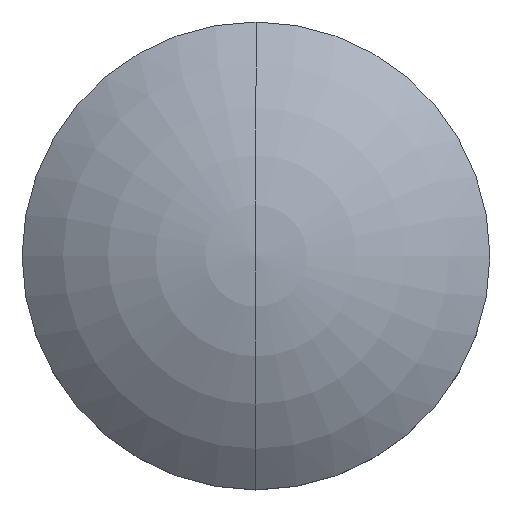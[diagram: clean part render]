
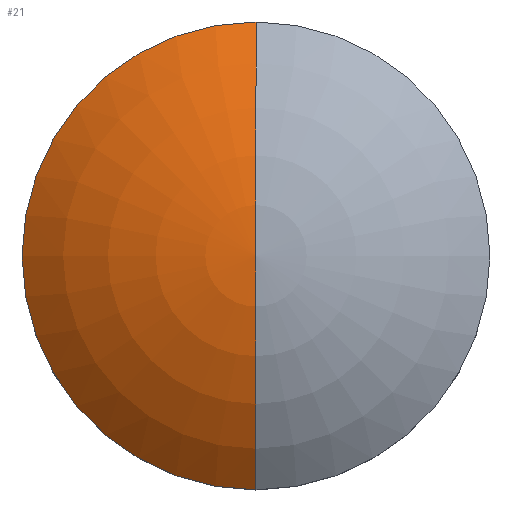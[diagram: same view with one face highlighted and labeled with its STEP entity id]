
A CAD part, top view. The second image highlights one B-rep face of the part: STEP entity #21.
In plain terms, the highlighted toroidal (fillet/blend) face has major radius 0.002 mm and minor radius 17 mm.
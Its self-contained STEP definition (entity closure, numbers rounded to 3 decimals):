
#21 = ADVANCED_FACE ( 'NONE', ( #458 ), #459, .T. ) ;
#56 = VERTEX_POINT ( 'NONE', #704 ) ;
#76 = EDGE_CURVE ( 'NONE', #1420, #56, #798, .T. ) ;
#205 = CIRCLE ( 'NONE', #206, 17. ) ;
#206 = AXIS2_PLACEMENT_3D ( 'NONE', #207, #208, #209 ) ;
#207 = CARTESIAN_POINT ( 'NONE',  ( 0., 0.002, -17. ) ) ;
#208 = DIRECTION ( 'NONE',  ( -1., 0., 0. ) ) ;
#209 = DIRECTION ( 'NONE',  ( 0., 0., 1. ) ) ;
#429 = CARTESIAN_POINT ( 'NONE',  ( 0., 11., -4.04 ) ) ;
#458 = FACE_OUTER_BOUND ( 'NONE', #1412, .T. ) ;
#459 = TOROIDAL_SURFACE ( 'NONE', #460, -0.002, 17. ) ;
#460 = AXIS2_PLACEMENT_3D ( 'NONE', #461, #462, #463 ) ;
#461 = CARTESIAN_POINT ( 'NONE',  ( 0., 0., -17. ) ) ;
#462 = DIRECTION ( 'NONE',  ( 0., 0., 1. ) ) ;
#463 = DIRECTION ( 'NONE',  ( 0., -1., 0. ) ) ;
#679 = CARTESIAN_POINT ( 'NONE',  ( 0., -11., -4.04 ) ) ;
#704 = CARTESIAN_POINT ( 'NONE',  ( 0., 0., 0. ) ) ;
#727 = ORIENTED_EDGE ( 'NONE', *, *, #1401, .T. ) ;
#798 = CIRCLE ( 'NONE', #799, 17. ) ;
#799 = AXIS2_PLACEMENT_3D ( 'NONE', #800, #801, #802 ) ;
#800 = CARTESIAN_POINT ( 'NONE',  ( 0., -0.002, -17. ) ) ;
#801 = DIRECTION ( 'NONE',  ( 1., 0., 0. ) ) ;
#802 = DIRECTION ( 'NONE',  ( 0., 1., 0. ) ) ;
#816 = CIRCLE ( 'NONE', #817, 11. ) ;
#817 = AXIS2_PLACEMENT_3D ( 'NONE', #818, #819, #820 ) ;
#818 = CARTESIAN_POINT ( 'NONE',  ( 0., 0., -4.04 ) ) ;
#819 = DIRECTION ( 'NONE',  ( 0., 0., 1. ) ) ;
#820 = DIRECTION ( 'NONE',  ( 0., -1., 0. ) ) ;
#1210 = EDGE_CURVE ( 'NONE', #1420, #1377, #816, .T. ) ;
#1340 = ORIENTED_EDGE ( 'NONE', *, *, #1210, .T. ) ;
#1377 = VERTEX_POINT ( 'NONE', #679 ) ;
#1380 = ORIENTED_EDGE ( 'NONE', *, *, #76, .F. ) ;
#1401 = EDGE_CURVE ( 'NONE', #1377, #56, #205, .T. ) ;
#1412 = EDGE_LOOP ( 'NONE', ( #1380, #1340, #727 ) ) ;
#1420 = VERTEX_POINT ( 'NONE', #429 ) ;
